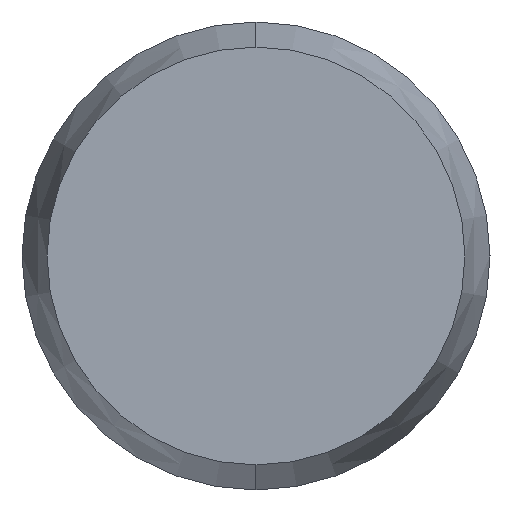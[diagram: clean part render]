
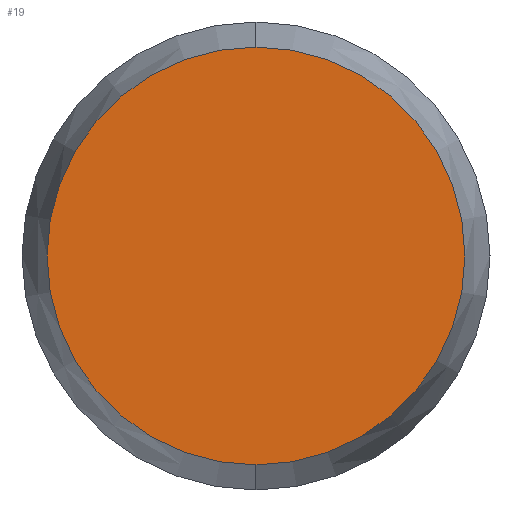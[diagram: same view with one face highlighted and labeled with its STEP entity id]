
A CAD part, left-side view. The second image highlights one B-rep face of the part: STEP entity #19.
In plain terms, the highlighted planar face has unit normal (-1, 0, 0).
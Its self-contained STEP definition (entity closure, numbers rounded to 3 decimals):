
#10 = VERTEX_POINT ( 'NONE', #54 ) ;
#17 = EDGE_CURVE ( 'NONE', #18, #10, #62, .T. ) ;
#18 = VERTEX_POINT ( 'NONE', #83 ) ;
#19 = ADVANCED_FACE ( 'NONE', ( #77 ), #74, .F. ) ;
#22 = EDGE_LOOP ( 'NONE', ( #23, #34 ) ) ;
#23 = ORIENTED_EDGE ( 'NONE', *, *, #17, .F. ) ;
#30 = EDGE_CURVE ( 'NONE', #10, #18, #87, .T. ) ;
#33 = DIRECTION ( 'NONE',  ( 1., 0., 0. ) ) ;
#34 = ORIENTED_EDGE ( 'NONE', *, *, #30, .F. ) ;
#38 = DIRECTION ( 'NONE',  ( 0., 0., -1. ) ) ;
#54 = CARTESIAN_POINT ( 'NONE',  ( -2., 0., -0.446 ) ) ;
#60 = CARTESIAN_POINT ( 'NONE',  ( -2., 0., 0. ) ) ;
#61 = AXIS2_PLACEMENT_3D ( 'NONE', #60, #33, #38 ) ;
#62 = CIRCLE ( 'NONE', #61, 0.446 ) ;
#72 = AXIS2_PLACEMENT_3D ( 'NONE', #73, #76, #75 ) ;
#73 = CARTESIAN_POINT ( 'NONE',  ( -2., 0., 0. ) ) ;
#74 = PLANE ( 'NONE',  #72 ) ;
#75 = DIRECTION ( 'NONE',  ( 0., 0., -1. ) ) ;
#76 = DIRECTION ( 'NONE',  ( 1., 0., 0. ) ) ;
#77 = FACE_OUTER_BOUND ( 'NONE', #22, .T. ) ;
#83 = CARTESIAN_POINT ( 'NONE',  ( -2., 0., 0.446 ) ) ;
#86 = DIRECTION ( 'NONE',  ( 1., 0., 0. ) ) ;
#87 = CIRCLE ( 'NONE', #109, 0.446 ) ;
#90 = DIRECTION ( 'NONE',  ( 0., 0., -1. ) ) ;
#98 = CARTESIAN_POINT ( 'NONE',  ( -2., 0., 0. ) ) ;
#109 = AXIS2_PLACEMENT_3D ( 'NONE', #98, #86, #90 ) ;
